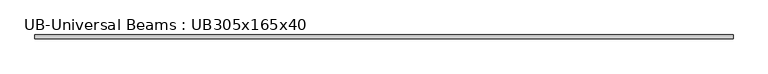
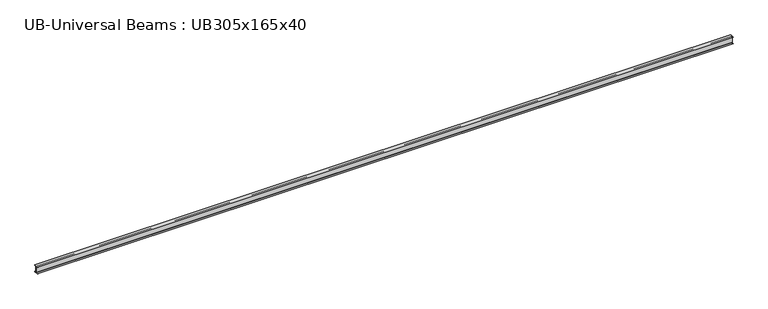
"""IFC4 building model written with IfcOpenShell, lengths in millimetres: beam geometry, UB-Universal Beams : UB305x165x40."""

from ifc_helpers import new_model, si_unit, point, frame, frame_2d, origin, place, context, project, spatial, polyline, circle_curve, trimmed, segment, composite_curve, outline, extrude, source, transform, mapped, element, save


def ub_universal_beams_ub305x165x40_f28fc4b8(model_context):
    return source(origin(), model_context, "Body", "SweptSolid", [
        extrude(outline(composite_curve([segment(polyline([(82.5, -141.5), (82.5, -151.7), (-82.5, -151.7), (-82.5, -141.5), (-11.9, -141.5)]), True, "CONTINUOUS"), segment(trimmed(circle_curve(frame_2d((-11.9, -132.6)), 8.9), [point((-11.9, -141.5))], [point((-3.0, -132.6))], True, "CARTESIAN"), True, "CONTINUOUS"), segment(polyline([(-3.0, -132.6), (-3.0, 132.6)]), True, "CONTINUOUS"), segment(trimmed(circle_curve(frame_2d((-11.9, 132.6)), 8.9), [point((-3.0, 132.6))], [point((-11.9, 141.5))], True, "CARTESIAN"), True, "CONTINUOUS"), segment(polyline([(-11.9, 141.5), (-82.5, 141.5), (-82.5, 151.7), (82.5, 151.7), (82.5, 141.5), (11.9, 141.5)]), True, "CONTINUOUS"), segment(trimmed(circle_curve(frame_2d((11.9, 132.6)), 8.9), [point((11.9, 141.5))], [point((3.0, 132.6))], True, "CARTESIAN"), True, "CONTINUOUS"), segment(polyline([(3.0, 132.6), (3.0, -132.6)]), True, "CONTINUOUS"), segment(trimmed(circle_curve(frame_2d((11.9, -132.6)), 8.9), [point((3.0, -132.6))], [point((11.9, -141.5))], True, "CARTESIAN"), True, "CONTINUOUS"), segment(polyline([(11.9, -141.5), (82.5, -141.5)]), True, "CONTINUOUS")], self_intersect=False)), frame((-14928.25, 0.0, 0.0), z_axis=(1.0, 0.0, 0.0), x_axis=(0.0, 1.0, 0.0)), (0.0, 0.0, 1.0), 29961.5),
    ])


if __name__ == "__main__":
    model = new_model("IFC4")
    model_context = context("Model", 3, world=origin())
    ifc_project = project(units=[si_unit("LENGTHUNIT", "METRE", prefix="MILLI")], contexts=[model_context])
    site = spatial("IfcSite", under=ifc_project)
    building = spatial("IfcBuilding", under=site)
    placement = place(None, origin())
    ub_universal_beams_ub305x165x40_shape = ub_universal_beams_ub305x165x40_f28fc4b8(model_context)
    element("IfcBeam", 1, ObjectType="UB-Universal Beams : UB305x165x40", at=placement, inside=building, context=model_context, shape_type="MappedRepresentation", body=[
        mapped(ub_universal_beams_ub305x165x40_shape, transform((0.0, 0.0, 0.0), x_axis=(1.0, 0.0, 0.0), y_axis=(0.0, 1.0, 0.0), z_axis=(0.0, 0.0, 1.0))),
    ])
    save(model, "model.ifc")
